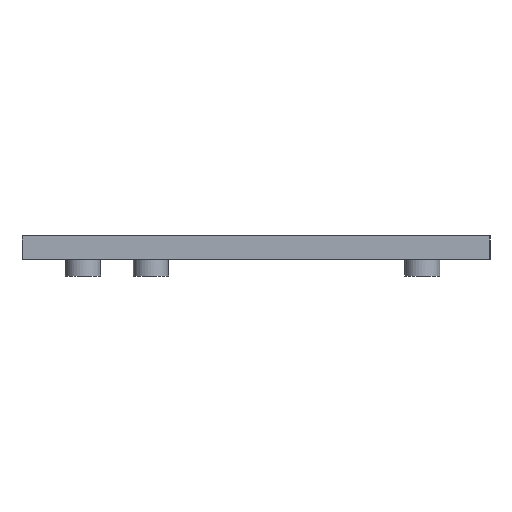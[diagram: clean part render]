
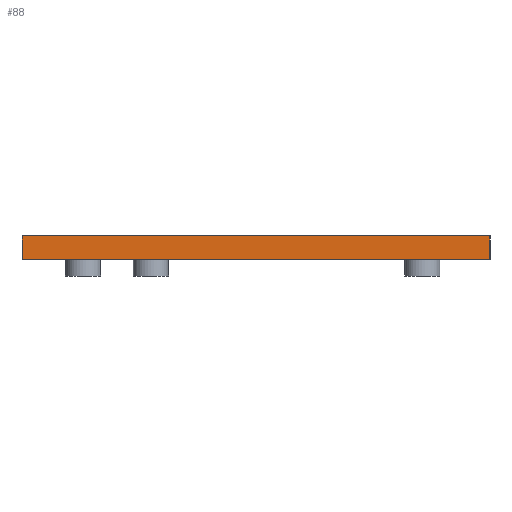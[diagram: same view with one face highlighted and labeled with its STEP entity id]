
A CAD part, left-side view. The second image highlights one B-rep face of the part: STEP entity #88.
In plain terms, the highlighted planar face has unit normal (-1, 0, 0).
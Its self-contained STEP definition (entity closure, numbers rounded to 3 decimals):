
#32 = VERTEX_POINT('',#33);
#33 = CARTESIAN_POINT('',(-44.,124.,67.4));
#39 = EDGE_CURVE('',#40,#32,#42,.T.);
#40 = VERTEX_POINT('',#41);
#41 = CARTESIAN_POINT('',(-44.,124.,64.));
#42 = LINE('',#43,#44);
#43 = CARTESIAN_POINT('',(-44.,124.,64.));
#44 = VECTOR('',#45,1.);
#45 = DIRECTION('',(0.,0.,1.));
#88 = ADVANCED_FACE('',(#89),#114,.T.);
#89 = FACE_BOUND('',#90,.T.);
#90 = EDGE_LOOP('',(#91,#99,#100,#108));
#91 = ORIENTED_EDGE('',*,*,#92,.T.);
#92 = EDGE_CURVE('',#93,#32,#95,.T.);
#93 = VERTEX_POINT('',#94);
#94 = CARTESIAN_POINT('',(-44.,55.,67.4));
#95 = LINE('',#96,#97);
#96 = CARTESIAN_POINT('',(-44.,55.,67.4));
#97 = VECTOR('',#98,1.);
#98 = DIRECTION('',(0.,1.,0.));
#99 = ORIENTED_EDGE('',*,*,#39,.F.);
#100 = ORIENTED_EDGE('',*,*,#101,.T.);
#101 = EDGE_CURVE('',#40,#102,#104,.T.);
#102 = VERTEX_POINT('',#103);
#103 = CARTESIAN_POINT('',(-44.,55.,64.));
#104 = LINE('',#105,#106);
#105 = CARTESIAN_POINT('',(-44.,124.,64.));
#106 = VECTOR('',#107,1.);
#107 = DIRECTION('',(0.,-1.,0.));
#108 = ORIENTED_EDGE('',*,*,#109,.T.);
#109 = EDGE_CURVE('',#102,#93,#110,.T.);
#110 = LINE('',#111,#112);
#111 = CARTESIAN_POINT('',(-44.,55.,64.));
#112 = VECTOR('',#113,1.);
#113 = DIRECTION('',(0.,0.,1.));
#114 = PLANE('',#115);
#115 = AXIS2_PLACEMENT_3D('',#116,#117,#118);
#116 = CARTESIAN_POINT('',(-44.,89.5,65.7));
#117 = DIRECTION('',(-1.,-0.,-0.));
#118 = DIRECTION('',(0.,0.,-1.));
